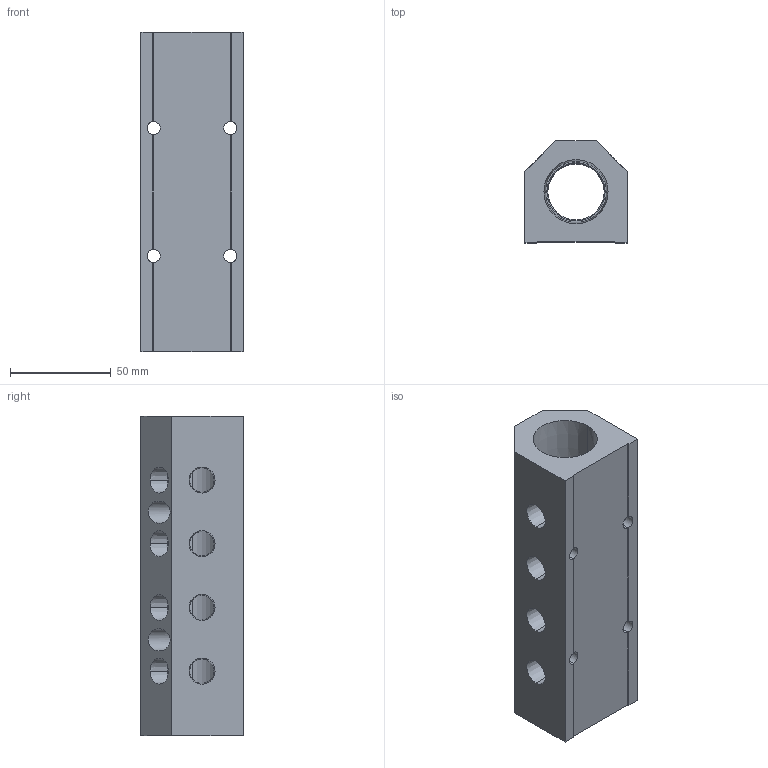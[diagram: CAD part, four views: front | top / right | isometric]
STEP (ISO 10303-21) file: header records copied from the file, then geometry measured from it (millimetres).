
FILE_DESCRIPTION (( 'STEP AP214' ), '1' );
FILE_NAME ('ALM4AB-N4N16-159B.STEP', '2023-11-02T06:33:02', ( '' ), ( '' ), 'SwSTEP 2.0', 'SolidWorks 2020', '' );
FILE_SCHEMA (( 'AUTOMOTIVE_DESIGN' ));
Length unit declared in the file: millimetre
Products named in the file (1): ALM4AB-N4N16-159B
Bounding box: 50.8 x 50.8 x 159 mm (x, y, z)
Volume: 245008.4 mm3; surface area: 52535.2 mm2
Topology: 1 solids, 1 shells, 316 faces, 833 edges, 550 vertices
Faces by surface type: plane 221, bspline 49, cone 24, cylinder 22
Entity records: 16264 total; most frequent: CARTESIAN_POINT 5901, ORIENTED_EDGE 1666, DIRECTION 1291, EDGE_CURVE 833, LINE 635, VECTOR 635, VERTEX_POINT 550, EDGE_LOOP 373
